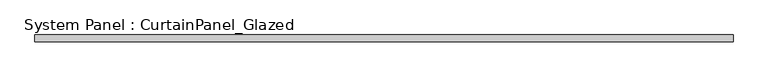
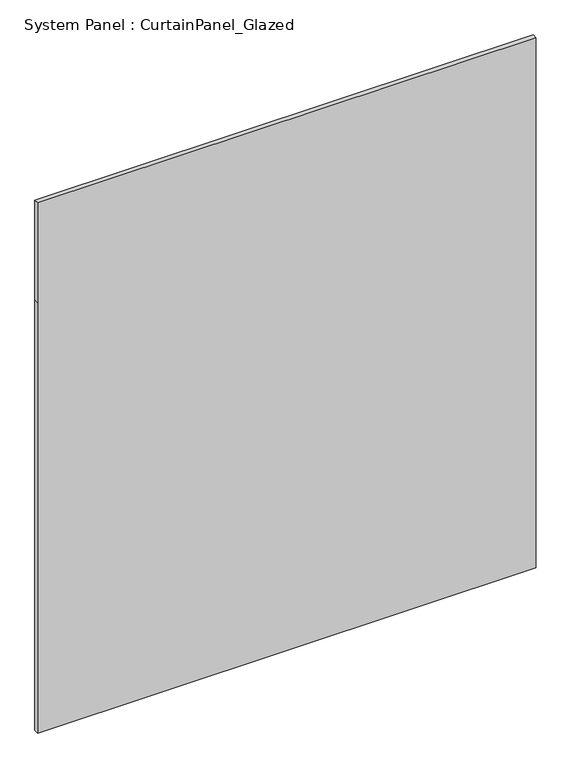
"""IFC4 building model written with IfcOpenShell, lengths in millimetres: plate geometry, System Panel : CurtainPanel_Glazed."""

from ifc_helpers import new_model, si_unit, frame, origin, place, context, project, spatial, polyline, outline, extrude, source, transform, mapped, element, save


def system_panel_curtainpanel_glazed_085e24f9(model_context):
    return source(origin(), model_context, "Body", "SweptSolid", [
        extrude(outline(polyline([(0.0, -1301.0000001), (0.0, 1301.0000001), (2375.0, 1301.0000001), (2925.0, 1301.0000001), (2925.0, -1301.0000001), (2375.0, -1301.0000001), (0.0, -1301.0000001)])), frame((0.0, -12.5, 0.0), z_axis=(0.0, 1.0, 0.0), x_axis=(0.0, 0.0, 1.0)), (0.0, 0.0, 1.0), 25.0),
    ])


if __name__ == "__main__":
    model = new_model("IFC4")
    model_context = context("Model", 3, world=origin())
    ifc_project = project(units=[si_unit("LENGTHUNIT", "METRE", prefix="MILLI")], contexts=[model_context])
    site = spatial("IfcSite", under=ifc_project)
    building = spatial("IfcBuilding", under=site)
    placement = place(None, origin())
    system_panel_curtainpanel_glazed_shape = system_panel_curtainpanel_glazed_085e24f9(model_context)
    element("IfcPlate", 1, ObjectType="System Panel : CurtainPanel_Glazed", at=placement, inside=building, context=model_context, shape_type="MappedRepresentation", body=[
        mapped(system_panel_curtainpanel_glazed_shape, transform((0.0, 0.0, 0.0), x_axis=(1.0, 0.0, 0.0), y_axis=(0.0, 1.0, 0.0), z_axis=(0.0, 0.0, 1.0))),
    ])
    save(model, "model.ifc")
